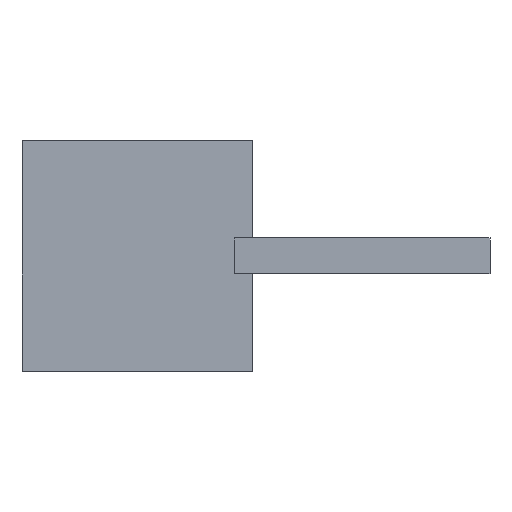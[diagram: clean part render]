
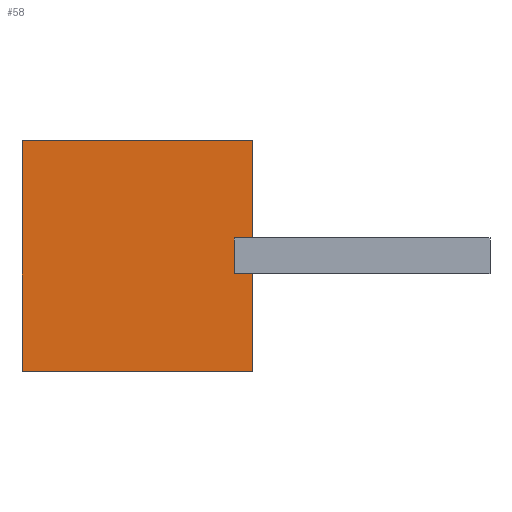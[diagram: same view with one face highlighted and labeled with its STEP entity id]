
A CAD part, top view. The second image highlights one B-rep face of the part: STEP entity #58.
In plain terms, the highlighted planar face has unit normal (0, 0, 1).
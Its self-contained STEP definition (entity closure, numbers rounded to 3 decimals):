
#58=ADVANCED_FACE('',(#166),#168,.T.);
#166=FACE_BOUND('',#167,.T.);
#167=EDGE_LOOP('',(#250,#251,#252,#253,#254,#255,#256,#257));
#168=PLANE('',#169);
#169=AXIS2_PLACEMENT_3D('',#170,#171,#172);
#170=CARTESIAN_POINT('',(0.,0.,1.));
#171=DIRECTION('',(0.,0.,1.));
#172=DIRECTION('',(-1.,0.,0.));
#250=ORIENTED_EDGE('',*,*,#306,.F.);
#251=ORIENTED_EDGE('',*,*,#307,.F.);
#252=ORIENTED_EDGE('',*,*,#308,.T.);
#253=ORIENTED_EDGE('',*,*,#309,.T.);
#254=ORIENTED_EDGE('',*,*,#310,.T.);
#255=ORIENTED_EDGE('',*,*,#311,.T.);
#256=ORIENTED_EDGE('',*,*,#312,.T.);
#257=ORIENTED_EDGE('',*,*,#313,.F.);
#306=EDGE_CURVE('',#334,#335,#336,.T.);
#307=EDGE_CURVE('',#337,#334,#338,.T.);
#308=EDGE_CURVE('',#337,#339,#340,.T.);
#309=EDGE_CURVE('',#339,#341,#342,.T.);
#310=EDGE_CURVE('',#341,#343,#344,.T.);
#311=EDGE_CURVE('',#343,#345,#346,.T.);
#312=EDGE_CURVE('',#345,#347,#348,.T.);
#313=EDGE_CURVE('',#335,#347,#349,.T.);
#334=VERTEX_POINT('',#380);
#335=VERTEX_POINT('',#381);
#336=LINE('',#382,#383);
#337=VERTEX_POINT('',#385);
#338=LINE('',#386,#387);
#339=VERTEX_POINT('',#389);
#340=LINE('',#390,#391);
#341=VERTEX_POINT('',#393);
#342=LINE('',#394,#395);
#343=VERTEX_POINT('',#397);
#344=LINE('',#398,#399);
#345=VERTEX_POINT('',#401);
#346=LINE('',#402,#403);
#347=VERTEX_POINT('',#405);
#348=LINE('',#406,#407);
#349=LINE('',#409,#410);
#380=CARTESIAN_POINT('',(2.694,0.5,1.));
#381=CARTESIAN_POINT('',(2.694,-0.5,1.));
#382=CARTESIAN_POINT('',(2.694,0.5,1.));
#383=VECTOR('',#384,1.);
#384=DIRECTION('',(0.,-1.,0.));
#385=CARTESIAN_POINT('',(3.2,0.5,1.));
#386=CARTESIAN_POINT('',(3.2,0.5,1.));
#387=VECTOR('',#388,1.);
#388=DIRECTION('',(-1.,0.,0.));
#389=CARTESIAN_POINT('',(3.2,3.2,1.));
#390=CARTESIAN_POINT('',(3.2,0.5,1.));
#391=VECTOR('',#392,1.);
#392=DIRECTION('',(0.,1.,0.));
#393=CARTESIAN_POINT('',(-3.2,3.2,1.));
#394=CARTESIAN_POINT('',(3.2,3.2,1.));
#395=VECTOR('',#396,1.);
#396=DIRECTION('',(-1.,0.,0.));
#397=CARTESIAN_POINT('',(-3.2,-3.2,1.));
#398=CARTESIAN_POINT('',(-3.2,3.2,1.));
#399=VECTOR('',#400,1.);
#400=DIRECTION('',(0.,-1.,0.));
#401=CARTESIAN_POINT('',(3.2,-3.2,1.));
#402=CARTESIAN_POINT('',(-3.2,-3.2,1.));
#403=VECTOR('',#404,1.);
#404=DIRECTION('',(1.,0.,0.));
#405=CARTESIAN_POINT('',(3.2,-0.5,1.));
#406=CARTESIAN_POINT('',(3.2,-3.2,1.));
#407=VECTOR('',#408,1.);
#408=DIRECTION('',(0.,1.,0.));
#409=CARTESIAN_POINT('',(2.694,-0.5,1.));
#410=VECTOR('',#411,1.);
#411=DIRECTION('',(1.,0.,0.));
